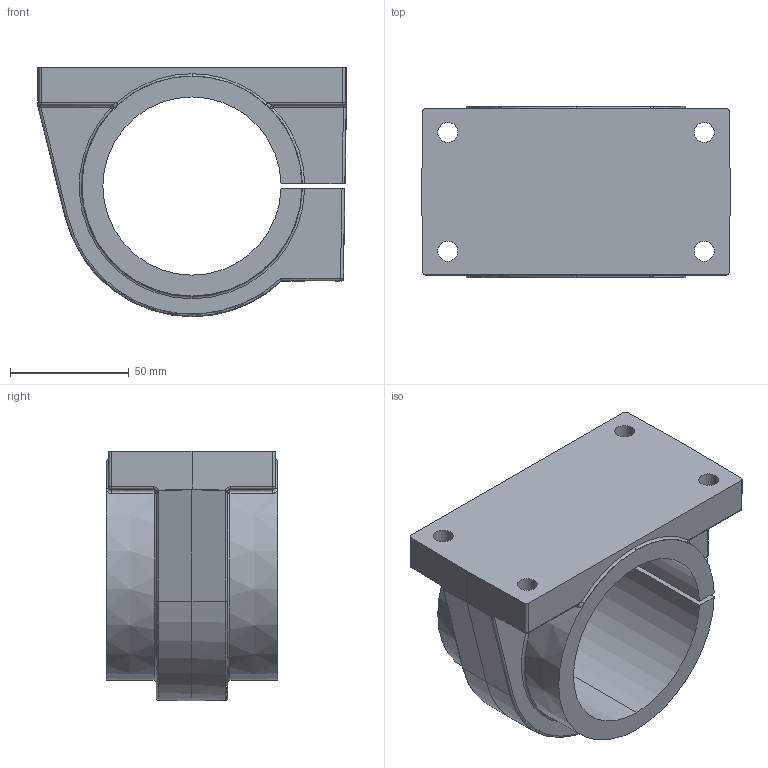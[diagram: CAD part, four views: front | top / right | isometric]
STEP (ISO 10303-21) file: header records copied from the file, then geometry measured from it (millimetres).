
FILE_DESCRIPTION (( 'STEP AP203' ), '1' );
FILE_NAME ('KGGE66-50.step', '2020-03-10T15:15:42', ( '' ), ( '' ), 'SwSTEP 2.0', 'SolidWorks 2019', '' );
FILE_SCHEMA (( 'CONFIG_CONTROL_DESIGN' ));
Length unit declared in the file: millimetre
Products named in the file (2): KGGE66-50
Bounding box: 129.98 x 72 x 105 mm (x, y, z)
Volume: 366988.2 mm3; surface area: 66431.2 mm2
Topology: 1 solids, 1 shells, 136 faces, 325 edges, 188 vertices
Faces by surface type: cylinder 53, plane 32, bspline 16, torus 12, sphere 12, cone 11
Entity records: 4471 total; most frequent: CARTESIAN_POINT 1295, DIRECTION 648, ORIENTED_EDGE 634, EDGE_CURVE 317, AXIS2_PLACEMENT_3D 265, VERTEX_POINT 188, EDGE_LOOP 151, CIRCLE 143
